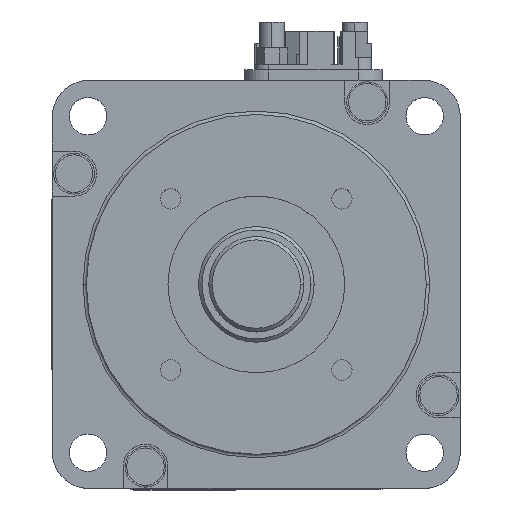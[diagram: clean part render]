
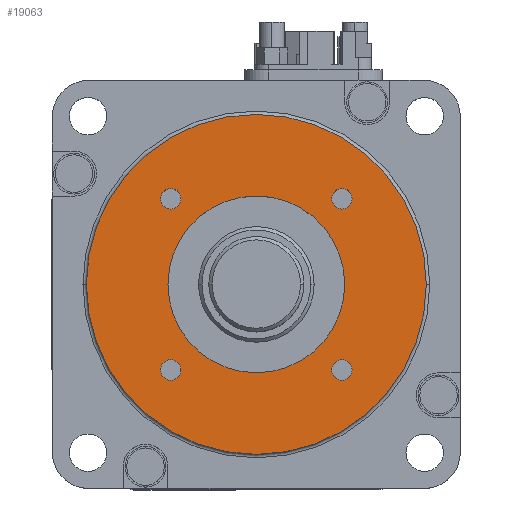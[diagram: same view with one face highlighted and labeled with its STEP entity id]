
A CAD part, top view. The second image highlights one B-rep face of the part: STEP entity #19063.
In plain terms, the highlighted planar face has unit normal (0, 0, 1).
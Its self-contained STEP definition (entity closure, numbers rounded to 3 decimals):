
#198 = CARTESIAN_POINT ( 'NONE',  ( 0., 0., 3. ) ) ;
#268 = AXIS2_PLACEMENT_3D ( 'NONE', #14029, #3073, #16087 ) ;
#460 = CIRCLE ( 'NONE', #3176, 13. ) ;
#1017 = DIRECTION ( 'NONE',  ( 0., 0., 1. ) ) ;
#1146 = FACE_BOUND ( 'NONE', #6311, .T. ) ;
#1206 = DIRECTION ( 'NONE',  ( 1., 0., 0. ) ) ;
#1434 = CARTESIAN_POINT ( 'NONE',  ( 25., 0., 3. ) ) ;
#1497 = CARTESIAN_POINT ( 'NONE',  ( -13., 0., 3. ) ) ;
#1638 = CIRCLE ( 'NONE', #2750, 1.5 ) ;
#1695 = DIRECTION ( 'NONE',  ( 1., 0., 0. ) ) ;
#1726 = FACE_OUTER_BOUND ( 'NONE', #9027, .T. ) ;
#1830 = CARTESIAN_POINT ( 'NONE',  ( -25., 0., 3. ) ) ;
#2068 = DIRECTION ( 'NONE',  ( 0., 0., 1. ) ) ;
#2402 = ORIENTED_EDGE ( 'NONE', *, *, #14221, .F. ) ;
#2415 = CIRCLE ( 'NONE', #8969, 1.5 ) ;
#2663 = CARTESIAN_POINT ( 'NONE',  ( -12.587, -12.587, 3. ) ) ;
#2713 = AXIS2_PLACEMENT_3D ( 'NONE', #2663, #11951, #15604 ) ;
#2750 = AXIS2_PLACEMENT_3D ( 'NONE', #4092, #18796, #18879 ) ;
#2757 = VERTEX_POINT ( 'NONE', #14550 ) ;
#2835 = DIRECTION ( 'NONE',  ( 1., 0., 0. ) ) ;
#3073 = DIRECTION ( 'NONE',  ( 0., 0., 1. ) ) ;
#3156 = FACE_BOUND ( 'NONE', #9111, .T. ) ;
#3176 = AXIS2_PLACEMENT_3D ( 'NONE', #198, #2068, #16858 ) ;
#3342 = ORIENTED_EDGE ( 'NONE', *, *, #16061, .F. ) ;
#3596 = CARTESIAN_POINT ( 'NONE',  ( 13., 0., 3. ) ) ;
#3709 = ORIENTED_EDGE ( 'NONE', *, *, #19809, .F. ) ;
#3865 = CARTESIAN_POINT ( 'NONE',  ( 14.087, 12.587, 3. ) ) ;
#4092 = CARTESIAN_POINT ( 'NONE',  ( 12.587, -12.587, 3. ) ) ;
#4253 = DIRECTION ( 'NONE',  ( 0., 0., 1. ) ) ;
#4361 = DIRECTION ( 'NONE',  ( 0., 0., 1. ) ) ;
#4431 = VERTEX_POINT ( 'NONE', #7619 ) ;
#4839 = VERTEX_POINT ( 'NONE', #1434 ) ;
#5034 = EDGE_CURVE ( 'NONE', #13095, #20775, #5135, .T. ) ;
#5056 = EDGE_LOOP ( 'NONE', ( #6341, #12791 ) ) ;
#5135 = CIRCLE ( 'NONE', #13168, 13. ) ;
#5242 = EDGE_LOOP ( 'NONE', ( #3342, #2402 ) ) ;
#5390 = AXIS2_PLACEMENT_3D ( 'NONE', #9068, #21978, #1695 ) ;
#5813 = CARTESIAN_POINT ( 'NONE',  ( 0., 0., 3. ) ) ;
#6039 = EDGE_CURVE ( 'NONE', #22545, #16503, #20077, .T. ) ;
#6247 = DIRECTION ( 'NONE',  ( 1., 0., 0. ) ) ;
#6311 = EDGE_LOOP ( 'NONE', ( #16547, #13450 ) ) ;
#6341 = ORIENTED_EDGE ( 'NONE', *, *, #6844, .F. ) ;
#6653 = DIRECTION ( 'NONE',  ( 0., 0., 1. ) ) ;
#6844 = EDGE_CURVE ( 'NONE', #13866, #8361, #7795, .T. ) ;
#6853 = CARTESIAN_POINT ( 'NONE',  ( 14.087, -12.587, 3. ) ) ;
#6993 = CARTESIAN_POINT ( 'NONE',  ( -11.087, 12.587, 3. ) ) ;
#7045 = CIRCLE ( 'NONE', #21027, 1.5 ) ;
#7119 = CIRCLE ( 'NONE', #5390, 1.5 ) ;
#7282 = EDGE_LOOP ( 'NONE', ( #18374, #7967 ) ) ;
#7388 = EDGE_CURVE ( 'NONE', #4431, #17461, #1638, .T. ) ;
#7619 = CARTESIAN_POINT ( 'NONE',  ( 11.087, -12.587, 3. ) ) ;
#7765 = DIRECTION ( 'NONE',  ( 1., 0., 0. ) ) ;
#7795 = CIRCLE ( 'NONE', #2713, 1.5 ) ;
#7967 = ORIENTED_EDGE ( 'NONE', *, *, #5034, .F. ) ;
#8043 = CARTESIAN_POINT ( 'NONE',  ( 12.587, 12.587, 3. ) ) ;
#8220 = CARTESIAN_POINT ( 'NONE',  ( -14.087, 12.587, 3. ) ) ;
#8248 = CARTESIAN_POINT ( 'NONE',  ( 0., 0., 3. ) ) ;
#8361 = VERTEX_POINT ( 'NONE', #9237 ) ;
#8581 = AXIS2_PLACEMENT_3D ( 'NONE', #5813, #4253, #7765 ) ;
#8906 = DIRECTION ( 'NONE',  ( 0., 0., 1. ) ) ;
#8969 = AXIS2_PLACEMENT_3D ( 'NONE', #23284, #8906, #1206 ) ;
#9027 = EDGE_LOOP ( 'NONE', ( #9723, #21964 ) ) ;
#9068 = CARTESIAN_POINT ( 'NONE',  ( 12.587, -12.587, 3. ) ) ;
#9111 = EDGE_LOOP ( 'NONE', ( #13064, #3709 ) ) ;
#9237 = CARTESIAN_POINT ( 'NONE',  ( -14.087, -12.587, 3. ) ) ;
#9655 = DIRECTION ( 'NONE',  ( 0., 0., 1. ) ) ;
#9723 = ORIENTED_EDGE ( 'NONE', *, *, #12783, .T. ) ;
#9816 = DIRECTION ( 'NONE',  ( 1., 0., 0. ) ) ;
#9828 = AXIS2_PLACEMENT_3D ( 'NONE', #15834, #6653, #2835 ) ;
#10079 = EDGE_CURVE ( 'NONE', #8361, #13866, #2415, .T. ) ;
#10115 = EDGE_CURVE ( 'NONE', #4839, #17959, #15418, .T. ) ;
#10578 = CIRCLE ( 'NONE', #9828, 1.5 ) ;
#11222 = AXIS2_PLACEMENT_3D ( 'NONE', #13626, #4361, #6247 ) ;
#11836 = FACE_BOUND ( 'NONE', #5242, .T. ) ;
#11951 = DIRECTION ( 'NONE',  ( 0., 0., 1. ) ) ;
#12007 = DIRECTION ( 'NONE',  ( 1., 0., 0. ) ) ;
#12155 = DIRECTION ( 'NONE',  ( 0., 0., 1. ) ) ;
#12419 = FACE_BOUND ( 'NONE', #5056, .T. ) ;
#12783 = EDGE_CURVE ( 'NONE', #17959, #4839, #14048, .T. ) ;
#12791 = ORIENTED_EDGE ( 'NONE', *, *, #10079, .F. ) ;
#12904 = CARTESIAN_POINT ( 'NONE',  ( 12.587, 12.587, 3. ) ) ;
#13064 = ORIENTED_EDGE ( 'NONE', *, *, #6039, .F. ) ;
#13095 = VERTEX_POINT ( 'NONE', #1497 ) ;
#13168 = AXIS2_PLACEMENT_3D ( 'NONE', #13988, #12155, #19790 ) ;
#13450 = ORIENTED_EDGE ( 'NONE', *, *, #7388, .F. ) ;
#13626 = CARTESIAN_POINT ( 'NONE',  ( -12.587, 12.587, 3. ) ) ;
#13735 = EDGE_CURVE ( 'NONE', #17461, #4431, #7119, .T. ) ;
#13866 = VERTEX_POINT ( 'NONE', #17294 ) ;
#13988 = CARTESIAN_POINT ( 'NONE',  ( 0., 0., 3. ) ) ;
#14029 = CARTESIAN_POINT ( 'NONE',  ( 0., 0., 3. ) ) ;
#14048 = CIRCLE ( 'NONE', #8581, 25. ) ;
#14221 = EDGE_CURVE ( 'NONE', #2757, #21542, #7045, .T. ) ;
#14550 = CARTESIAN_POINT ( 'NONE',  ( 11.087, 12.587, 3. ) ) ;
#15418 = CIRCLE ( 'NONE', #268, 25. ) ;
#15581 = AXIS2_PLACEMENT_3D ( 'NONE', #8043, #9655, #9816 ) ;
#15604 = DIRECTION ( 'NONE',  ( 1., 0., 0. ) ) ;
#15834 = CARTESIAN_POINT ( 'NONE',  ( -12.587, 12.587, 3. ) ) ;
#16061 = EDGE_CURVE ( 'NONE', #21542, #2757, #20535, .T. ) ;
#16087 = DIRECTION ( 'NONE',  ( 1., 0., 0. ) ) ;
#16503 = VERTEX_POINT ( 'NONE', #8220 ) ;
#16547 = ORIENTED_EDGE ( 'NONE', *, *, #13735, .F. ) ;
#16698 = DIRECTION ( 'NONE',  ( 0., 0., 1. ) ) ;
#16858 = DIRECTION ( 'NONE',  ( 1., 0., 0. ) ) ;
#17294 = CARTESIAN_POINT ( 'NONE',  ( -11.087, -12.587, 3. ) ) ;
#17461 = VERTEX_POINT ( 'NONE', #6853 ) ;
#17466 = AXIS2_PLACEMENT_3D ( 'NONE', #8248, #1017, #12007 ) ;
#17959 = VERTEX_POINT ( 'NONE', #1830 ) ;
#18374 = ORIENTED_EDGE ( 'NONE', *, *, #22229, .F. ) ;
#18796 = DIRECTION ( 'NONE',  ( 0., 0., 1. ) ) ;
#18879 = DIRECTION ( 'NONE',  ( 1., 0., 0. ) ) ;
#19063 = ADVANCED_FACE ( 'NONE', ( #1146, #12419, #3156, #11836, #22255, #1726 ), #19273, .T. ) ;
#19273 = PLANE ( 'NONE',  #17466 ) ;
#19790 = DIRECTION ( 'NONE',  ( 1., 0., 0. ) ) ;
#19809 = EDGE_CURVE ( 'NONE', #16503, #22545, #10578, .T. ) ;
#20077 = CIRCLE ( 'NONE', #11222, 1.5 ) ;
#20386 = DIRECTION ( 'NONE',  ( 1., 0., 0. ) ) ;
#20535 = CIRCLE ( 'NONE', #15581, 1.5 ) ;
#20775 = VERTEX_POINT ( 'NONE', #3596 ) ;
#21027 = AXIS2_PLACEMENT_3D ( 'NONE', #12904, #16698, #20386 ) ;
#21542 = VERTEX_POINT ( 'NONE', #3865 ) ;
#21964 = ORIENTED_EDGE ( 'NONE', *, *, #10115, .T. ) ;
#21978 = DIRECTION ( 'NONE',  ( 0., 0., 1. ) ) ;
#22229 = EDGE_CURVE ( 'NONE', #20775, #13095, #460, .T. ) ;
#22255 = FACE_BOUND ( 'NONE', #7282, .T. ) ;
#22545 = VERTEX_POINT ( 'NONE', #6993 ) ;
#23284 = CARTESIAN_POINT ( 'NONE',  ( -12.587, -12.587, 3. ) ) ;
